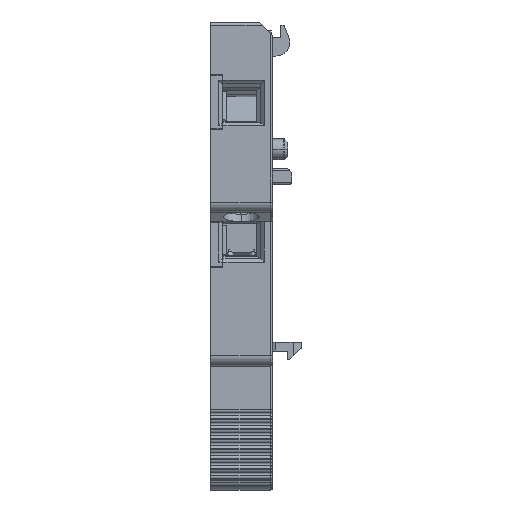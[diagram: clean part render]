
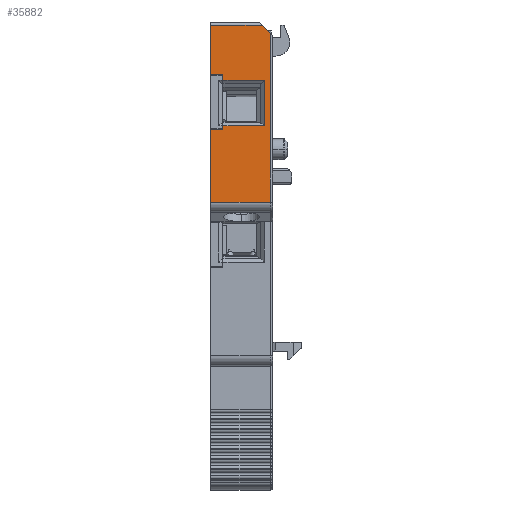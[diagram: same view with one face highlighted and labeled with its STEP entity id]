
A CAD part, left-side view. The second image highlights one B-rep face of the part: STEP entity #35882.
In plain terms, the highlighted planar face has unit normal (-1, 0, 0) as drawn and (0, 1, 0) by its records, which use the part's own axes.
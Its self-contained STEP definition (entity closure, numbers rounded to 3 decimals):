
#458 = CARTESIAN_POINT ( 'NONE',  ( -9., 40.5, 15.6 ) ) ;
#1017 = DIRECTION ( 'NONE',  ( -1., 0., 0. ) ) ;
#1426 = LINE ( 'NONE', #33848, #17459 ) ;
#2281 = LINE ( 'NONE', #39859, #19722 ) ;
#2390 = CARTESIAN_POINT ( 'NONE',  ( -1.2, 40.5, 15.074 ) ) ;
#2513 = EDGE_CURVE ( 'NONE', #67857, #60683, #66134, .T. ) ;
#4274 = PLANE ( 'NONE',  #66343 ) ;
#4691 = FACE_OUTER_BOUND ( 'NONE', #21645, .T. ) ;
#5076 = CARTESIAN_POINT ( 'NONE',  ( -0.3, 40.5, 26.161 ) ) ;
#5677 = VECTOR ( 'NONE', #21312, 1000. ) ;
#5845 = DIRECTION ( 'NONE',  ( 0., 0., 1. ) ) ;
#6257 = ORIENTED_EDGE ( 'NONE', *, *, #55959, .F. ) ;
#6307 = CARTESIAN_POINT ( 'NONE',  ( -9., 40.5, 26.161 ) ) ;
#6585 = VERTEX_POINT ( 'NONE', #2390 ) ;
#10873 = CARTESIAN_POINT ( 'NONE',  ( -9., 40.5, 7.6 ) ) ;
#11053 = ORIENTED_EDGE ( 'NONE', *, *, #65597, .T. ) ;
#11175 = VERTEX_POINT ( 'NONE', #41460 ) ;
#11494 = EDGE_CURVE ( 'NONE', #35420, #73645, #23059, .T. ) ;
#13023 = VECTOR ( 'NONE', #47580, 1000. ) ;
#16007 = ORIENTED_EDGE ( 'NONE', *, *, #44182, .F. ) ;
#16174 = VECTOR ( 'NONE', #46718, 1000. ) ;
#17184 = CARTESIAN_POINT ( 'NONE',  ( -1.5, 40.5, 0.5 ) ) ;
#17370 = LINE ( 'NONE', #64722, #80992 ) ;
#17459 = VECTOR ( 'NONE', #59873, 1000. ) ;
#19722 = VECTOR ( 'NONE', #1017, 1000. ) ;
#20052 = LINE ( 'NONE', #458, #38333 ) ;
#20276 = EDGE_CURVE ( 'NONE', #26817, #60683, #65950, .T. ) ;
#20916 = VECTOR ( 'NONE', #25780, 1000. ) ;
#21312 = DIRECTION ( 'NONE',  ( 0., 0., 1. ) ) ;
#21645 = EDGE_LOOP ( 'NONE', ( #52752, #41652, #16007, #52303, #84253, #11053, #44797, #6257, #64510, #58583, #23950, #83005, #28586 ) ) ;
#21907 = VECTOR ( 'NONE', #75983, 1000. ) ;
#22511 = VERTEX_POINT ( 'NONE', #26166 ) ;
#23059 = LINE ( 'NONE', #68730, #61715 ) ;
#23506 = CARTESIAN_POINT ( 'NONE',  ( -7.2, 40.5, 15.074 ) ) ;
#23950 = ORIENTED_EDGE ( 'NONE', *, *, #71975, .F. ) ;
#24377 = CARTESIAN_POINT ( 'NONE',  ( -0.3, 40.5, 1.7 ) ) ;
#25176 = LINE ( 'NONE', #23506, #21907 ) ;
#25780 = DIRECTION ( 'NONE',  ( 1., 0., 0. ) ) ;
#25996 = DIRECTION ( 'NONE',  ( 0., 0., -1. ) ) ;
#26166 = CARTESIAN_POINT ( 'NONE',  ( -7.2, 40.5, 8.449 ) ) ;
#26817 = VERTEX_POINT ( 'NONE', #24377 ) ;
#26826 = VERTEX_POINT ( 'NONE', #70890 ) ;
#27301 = CARTESIAN_POINT ( 'NONE',  ( -1.2, 40.5, 8.449 ) ) ;
#28143 = LINE ( 'NONE', #27301, #5677 ) ;
#28586 = ORIENTED_EDGE ( 'NONE', *, *, #80593, .F. ) ;
#30704 = DIRECTION ( 'NONE',  ( 0., 1., 0. ) ) ;
#31431 = CARTESIAN_POINT ( 'NONE',  ( -7.2, 40.5, 15.074 ) ) ;
#32270 = VERTEX_POINT ( 'NONE', #65612 ) ;
#33848 = CARTESIAN_POINT ( 'NONE',  ( -9., 40.5, 7.6 ) ) ;
#35420 = VERTEX_POINT ( 'NONE', #42786 ) ;
#35882 = ADVANCED_FACE ( 'NONE', ( #4691 ), #4274, .T. ) ;
#38333 = VECTOR ( 'NONE', #52889, 1000. ) ;
#39658 = CARTESIAN_POINT ( 'NONE',  ( -9., 40.5, 26.161 ) ) ;
#39806 = CARTESIAN_POINT ( 'NONE',  ( -7.2, 40.5, 7.6 ) ) ;
#39859 = CARTESIAN_POINT ( 'NONE',  ( -1.2, 40.5, 8.449 ) ) ;
#41170 = LINE ( 'NONE', #58667, #16174 ) ;
#41359 = EDGE_CURVE ( 'NONE', #84243, #22511, #41170, .T. ) ;
#41460 = CARTESIAN_POINT ( 'NONE',  ( -9., 40.5, 7.6 ) ) ;
#41652 = ORIENTED_EDGE ( 'NONE', *, *, #50241, .F. ) ;
#42332 = VECTOR ( 'NONE', #61404, 1000. ) ;
#42786 = CARTESIAN_POINT ( 'NONE',  ( -9., 40.5, 0.5 ) ) ;
#44062 = CARTESIAN_POINT ( 'NONE',  ( -7.2, 40.5, 15.074 ) ) ;
#44182 = EDGE_CURVE ( 'NONE', #67857, #26826, #84456, .T. ) ;
#44797 = ORIENTED_EDGE ( 'NONE', *, *, #11494, .F. ) ;
#45782 = CARTESIAN_POINT ( 'NONE',  ( -7.2, 40.5, 15.6 ) ) ;
#46718 = DIRECTION ( 'NONE',  ( 0., 0., 1. ) ) ;
#47580 = DIRECTION ( 'NONE',  ( 0., 0., 1. ) ) ;
#50241 = EDGE_CURVE ( 'NONE', #26826, #59139, #20052, .T. ) ;
#50279 = EDGE_CURVE ( 'NONE', #32270, #6585, #28143, .T. ) ;
#50507 = VECTOR ( 'NONE', #25996, 1000. ) ;
#52303 = ORIENTED_EDGE ( 'NONE', *, *, #2513, .T. ) ;
#52752 = ORIENTED_EDGE ( 'NONE', *, *, #64318, .T. ) ;
#52889 = DIRECTION ( 'NONE',  ( 1., 0., 0. ) ) ;
#55959 = EDGE_CURVE ( 'NONE', #11175, #35420, #1426, .T. ) ;
#58583 = ORIENTED_EDGE ( 'NONE', *, *, #41359, .T. ) ;
#58667 = CARTESIAN_POINT ( 'NONE',  ( -7.2, 40.5, 7.6 ) ) ;
#59139 = VERTEX_POINT ( 'NONE', #45782 ) ;
#59873 = DIRECTION ( 'NONE',  ( 0., 0., -1. ) ) ;
#60683 = VERTEX_POINT ( 'NONE', #5076 ) ;
#61404 = DIRECTION ( 'NONE',  ( 1., 0., 0. ) ) ;
#61715 = VECTOR ( 'NONE', #81945, 1000. ) ;
#64294 = DIRECTION ( 'NONE',  ( -0.707, 0., -0.707 ) ) ;
#64318 = EDGE_CURVE ( 'NONE', #74921, #59139, #77098, .T. ) ;
#64510 = ORIENTED_EDGE ( 'NONE', *, *, #65903, .T. ) ;
#64722 = CARTESIAN_POINT ( 'NONE',  ( -0.3, 40.5, 1.7 ) ) ;
#65597 = EDGE_CURVE ( 'NONE', #26817, #73645, #17370, .T. ) ;
#65612 = CARTESIAN_POINT ( 'NONE',  ( -1.2, 40.5, 8.449 ) ) ;
#65903 = EDGE_CURVE ( 'NONE', #11175, #84243, #69337, .T. ) ;
#65950 = LINE ( 'NONE', #66365, #13023 ) ;
#66134 = LINE ( 'NONE', #73807, #42332 ) ;
#66343 = AXIS2_PLACEMENT_3D ( 'NONE', #69534, #30704, #69120 ) ;
#66365 = CARTESIAN_POINT ( 'NONE',  ( -0.3, 40.5, 1.7 ) ) ;
#67857 = VERTEX_POINT ( 'NONE', #6307 ) ;
#68730 = CARTESIAN_POINT ( 'NONE',  ( -9., 40.5, 0.5 ) ) ;
#69120 = DIRECTION ( 'NONE',  ( 0., 0., -1. ) ) ;
#69337 = LINE ( 'NONE', #10873, #20916 ) ;
#69534 = CARTESIAN_POINT ( 'NONE',  ( 0., 40.5, 68. ) ) ;
#70890 = CARTESIAN_POINT ( 'NONE',  ( -9., 40.5, 15.6 ) ) ;
#71975 = EDGE_CURVE ( 'NONE', #32270, #22511, #2281, .T. ) ;
#73645 = VERTEX_POINT ( 'NONE', #17184 ) ;
#73807 = CARTESIAN_POINT ( 'NONE',  ( -9., 40.5, 26.161 ) ) ;
#74921 = VERTEX_POINT ( 'NONE', #44062 ) ;
#75983 = DIRECTION ( 'NONE',  ( 1., 0., 0. ) ) ;
#77098 = LINE ( 'NONE', #31431, #78192 ) ;
#78192 = VECTOR ( 'NONE', #5845, 1000. ) ;
#80593 = EDGE_CURVE ( 'NONE', #74921, #6585, #25176, .T. ) ;
#80992 = VECTOR ( 'NONE', #64294, 1000. ) ;
#81945 = DIRECTION ( 'NONE',  ( 1., 0., 0. ) ) ;
#83005 = ORIENTED_EDGE ( 'NONE', *, *, #50279, .T. ) ;
#84243 = VERTEX_POINT ( 'NONE', #39806 ) ;
#84253 = ORIENTED_EDGE ( 'NONE', *, *, #20276, .F. ) ;
#84456 = LINE ( 'NONE', #39658, #50507 ) ;
